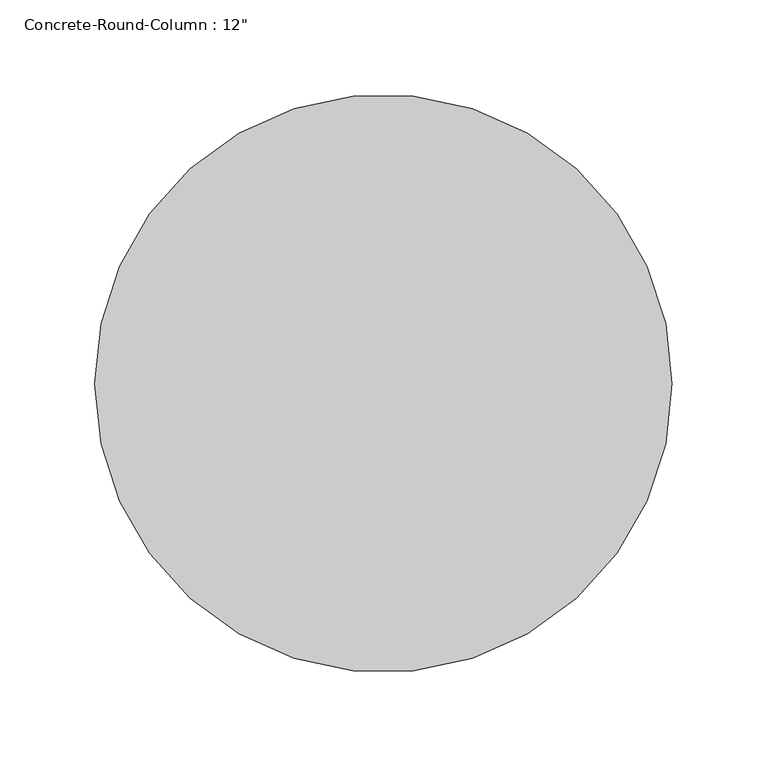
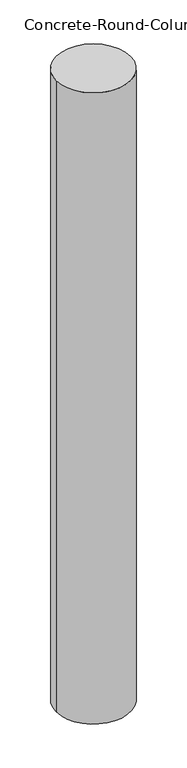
"""IFC4 building model written with IfcOpenShell, lengths in millimetres: column geometry."""

from ifc_helpers import new_model, si_unit, point, origin, origin_with_axes, origin_2d, place, context, project, spatial, circle_curve, trimmed, segment, composite_curve, outline, extrude, source, transform, mapped, element, save


def column_50414aac(model_context):
    return source(origin(), model_context, "Body", "SweptSolid", [
        extrude(outline(composite_curve([segment(trimmed(circle_curve(origin_2d(), 152.4), [point((-152.4, 0.0))], [point((152.4, 0.0))], False, "CARTESIAN"), True, "CONTINUOUS"), segment(trimmed(circle_curve(origin_2d(), 152.4), [point((152.4, 0.0))], [point((-152.4, 0.0))], False, "CARTESIAN"), True, "CONTINUOUS")], self_intersect=False)), origin_with_axes(), (0.0, 0.0, 1.0), 2743.2),
    ])


if __name__ == "__main__":
    model = new_model("IFC4")
    model_context = context("Model", 3, world=origin())
    ifc_project = project(units=[si_unit("LENGTHUNIT", "METRE", prefix="MILLI")], contexts=[model_context])
    site = spatial("IfcSite", under=ifc_project)
    building = spatial("IfcBuilding", under=site)
    placement = place(None, origin())
    column_shape = column_50414aac(model_context)
    element("IfcColumn", 1, ObjectType="Concrete-Round-Column : 12\"", at=placement, inside=building, context=model_context, shape_type="MappedRepresentation", body=[
        mapped(column_shape, transform((0.0, 0.0, 0.0), x_axis=(1.0, 0.0, 0.0), y_axis=(0.0, 1.0, 0.0), z_axis=(0.0, 0.0, 1.0))),
    ])
    save(model, "model.ifc")
